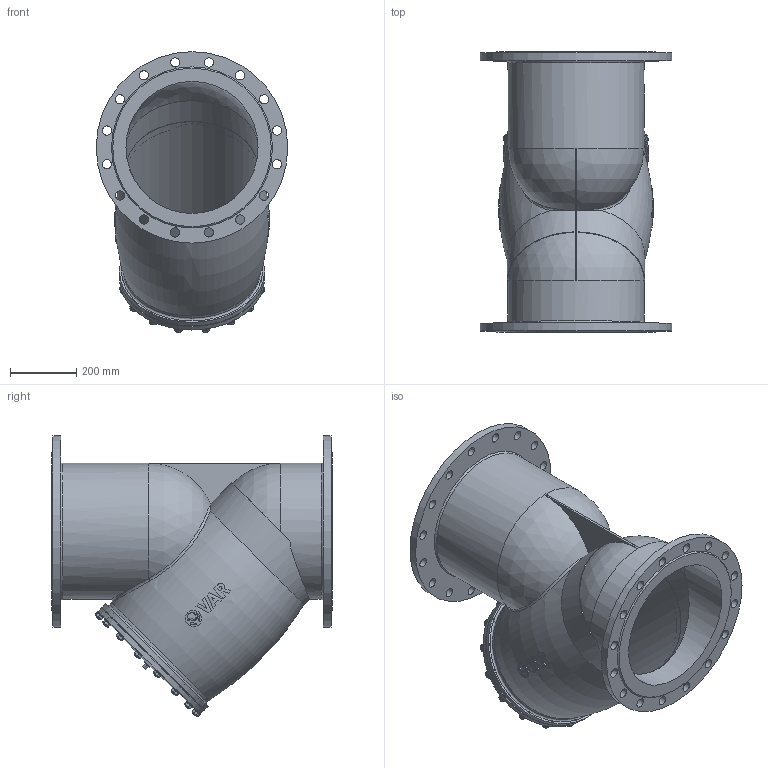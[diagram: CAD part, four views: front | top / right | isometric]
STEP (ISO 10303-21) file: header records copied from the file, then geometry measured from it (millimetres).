
FILE_DESCRIPTION(('STEP AP203'), '1');
FILE_NAME('VAR STRAINER ôèëüòð-ãðÿçåóëîâèòåëü', '', ('UNSPECIFIED'), ('UNSPECIFIED'), 'C3D Converter', 'C3D Toolkit', '');
FILE_SCHEMA(('CONFIG_CONTROL_DESIGN'));
Length unit declared in the file: millimetre
Assembly tree (53 placements, depth 2):
  (unnamed)
    (unnamed)
    (unnamed)
    (unnamed)  x16
    (unnamed)  x16
    (unnamed)  x16
    (unnamed)
    (unnamed)
    (unnamed)
Bounding box: 580 x 850 x 850 mm (x, y, z)
Volume: 19187986 mm3; surface area: 4901727.8 mm2
Topology: 54 solids, 54 shells, 748 faces, 1794 edges, 1155 vertices
Faces by surface type: plane 319, cylinder 152, extrusion 118, cone 116, torus 29, sphere 8, bspline 6
Full cylindrical faces by diameter (mm): 12 x48, 13 x16, 14 x18, 21 x1, 24 x16, 28 x32, 49.11 x1, 400 x6, 404 x3, 408 x1, 410 x2, 412 x1, 416 x1, 440 x2, 580 x2
Entity records: 29183 total; most frequent: CARTESIAN_POINT 16090, ORIENTED_EDGE 1978, DIRECTION 1727, EDGE_CURVE 989, VERTEX_POINT 716, EDGE_LOOP 685, AXIS2_PLACEMENT_3D 681, B_SPLINE_CURVE_WITH_KNOTS 518
